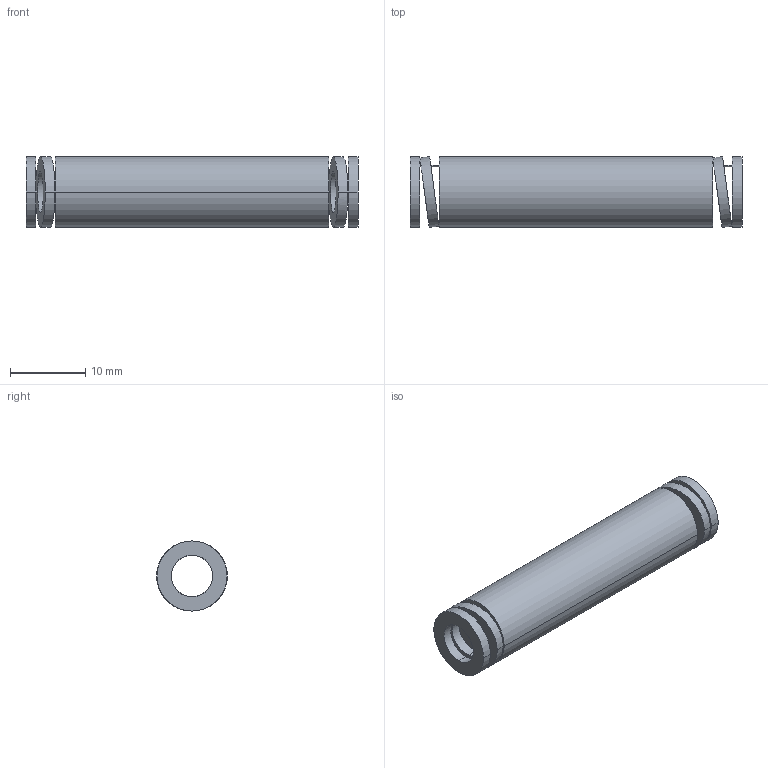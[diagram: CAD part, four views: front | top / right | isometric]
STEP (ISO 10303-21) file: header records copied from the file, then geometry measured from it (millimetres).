
FILE_DESCRIPTION(('CATIA V5 STEP Exchange'),'2;1');
FILE_NAME('C:\Users\Utente\Desktop\IO LAVORO\3D X SITO CF\X SITO\3D files 392B\392-B10-044.stp','2021-08-12T13:01:43+00:00',('none'),('none'),'CATIA Version 5 Release 20 GA (IN-10)','CATIA V5 STEP AP203','none');
FILE_SCHEMA(('CONFIG_CONTROL_DESIGN'));
Length unit declared in the file: millimetre
Products named in the file (1): 392-B10-044
Bounding box: 44 x 9.39 x 9.3 mm (x, y, z)
Volume: 1829.3 mm3; surface area: 2368.7 mm2
Topology: 1 solids, 1 shells, 38 faces, 92 edges, 64 vertices
Faces by surface type: cylinder 28, plane 10
Entity records: 1548 total; most frequent: CARTESIAN_POINT 659, ORIENTED_EDGE 184, DIRECTION 129, EDGE_CURVE 92, AXIS2_PLACEMENT_3D 64, VERTEX_POINT 64, EDGE_LOOP 56, B_SPLINE_CURVE_WITH_KNOTS 39
